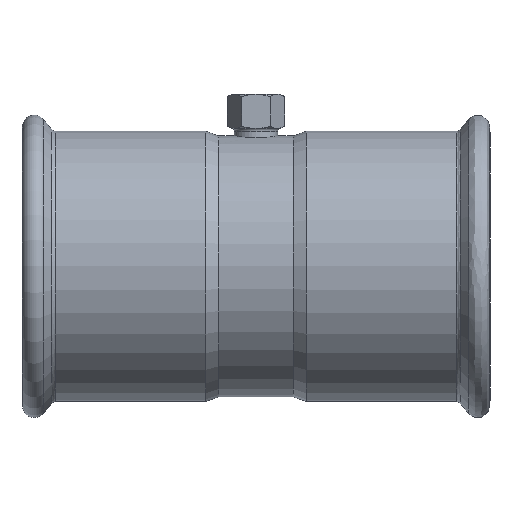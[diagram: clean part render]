
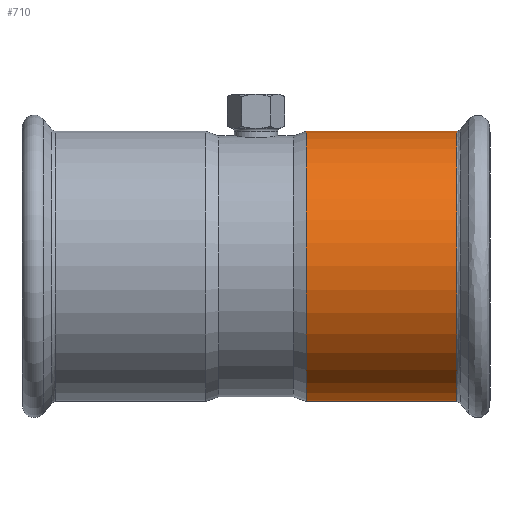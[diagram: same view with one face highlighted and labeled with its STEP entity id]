
A CAD part, front view. The second image highlights one B-rep face of the part: STEP entity #710.
In plain terms, the highlighted free-form (B-spline) face has degree [1, 2] with [2, 9] control points.
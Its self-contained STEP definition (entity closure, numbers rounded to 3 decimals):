
#655=CARTESIAN_POINT('',(129.439,87.25,0.0));
#656=VERTEX_POINT('',#655);
#657=CARTESIAN_POINT('',(129.439,0.0,0.0));
#658=DIRECTION('',(1.0,0.0,0.0));
#659=DIRECTION('',(0.0,1.0,0.0));
#660=AXIS2_PLACEMENT_3D('',#657,#658,#659);
#661=CIRCLE('',#660,87.25);
#662=EDGE_CURVE('',#656,#656,#661,.T.);
#670=CARTESIAN_POINT('',(129.439,-87.25,0.));
#671=CARTESIAN_POINT('',(32.542,-87.25,0.));
#672=CARTESIAN_POINT('',(129.439,-87.25,-87.25));
#673=CARTESIAN_POINT('',(32.542,-87.25,-87.25));
#674=CARTESIAN_POINT('',(129.439,0.,-87.25));
#675=CARTESIAN_POINT('',(32.542,0.,-87.25));
#676=CARTESIAN_POINT('',(129.439,87.25,-87.25));
#677=CARTESIAN_POINT('',(32.542,87.25,-87.25));
#678=CARTESIAN_POINT('',(129.439,87.25,0.));
#679=CARTESIAN_POINT('',(32.542,87.25,0.));
#680=CARTESIAN_POINT('',(129.439,87.25,87.25));
#681=CARTESIAN_POINT('',(32.542,87.25,87.25));
#682=CARTESIAN_POINT('',(129.439,0.,87.25));
#683=CARTESIAN_POINT('',(32.542,0.,87.25));
#684=CARTESIAN_POINT('',(129.439,-87.25,87.25));
#685=CARTESIAN_POINT('',(32.542,-87.25,87.25));
#686=CARTESIAN_POINT('',(129.439,-87.25,0.));
#687=CARTESIAN_POINT('',(32.542,-87.25,0.));
#695=(BOUNDED_SURFACE()B_SPLINE_SURFACE(1,2,((#670,#672,#674,#676,#678,#680,#682,#684,#686),(#671,#673,#675,#677,#679,#681,#683,#685,#687)),.UNSPECIFIED.,.F.,.T.,.U.)B_SPLINE_SURFACE_WITH_KNOTS((2,2),(3,2,2,2,3),(-0.555,0.555),(0.0,137.052,274.104,411.156,548.208),.UNSPECIFIED.)GEOMETRIC_REPRESENTATION_ITEM()RATIONAL_B_SPLINE_SURFACE(((1.0,0.707,1.0,0.707,1.0,0.707,1.0,0.707,1.0),(1.0,0.707,1.0,0.707,1.0,0.707,1.0,0.707,1.0)))REPRESENTATION_ITEM('')SURFACE());
#696=CARTESIAN_POINT('',(32.542,87.25,0.0));
#697=VERTEX_POINT('',#696);
#698=CARTESIAN_POINT('',(32.542,0.0,0.0));
#699=DIRECTION('',(1.0,0.0,0.0));
#700=DIRECTION('',(0.0,1.0,0.0));
#701=AXIS2_PLACEMENT_3D('',#698,#699,#700);
#702=CIRCLE('',#701,87.25);
#703=EDGE_CURVE('',#697,#697,#702,.T.);
#704=ORIENTED_EDGE('',*,*,#703,.T.);
#705=EDGE_LOOP('',(#704));
#706=FACE_OUTER_BOUND('',#705,.T.);
#707=ORIENTED_EDGE('',*,*,#662,.F.);
#708=EDGE_LOOP('',(#707));
#709=FACE_BOUND('',#708,.T.);
#710=ADVANCED_FACE('',(#706,#709),#695,.T.);
